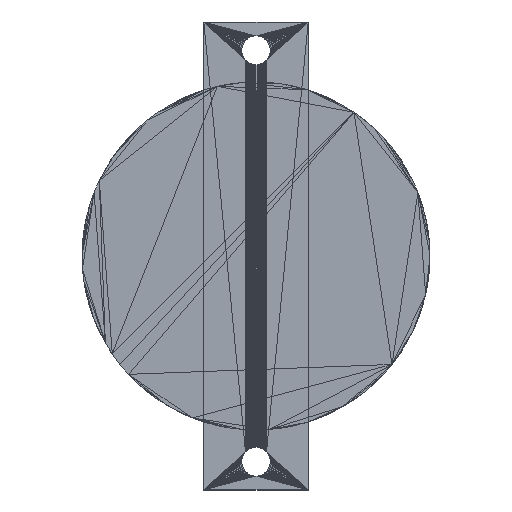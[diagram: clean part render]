
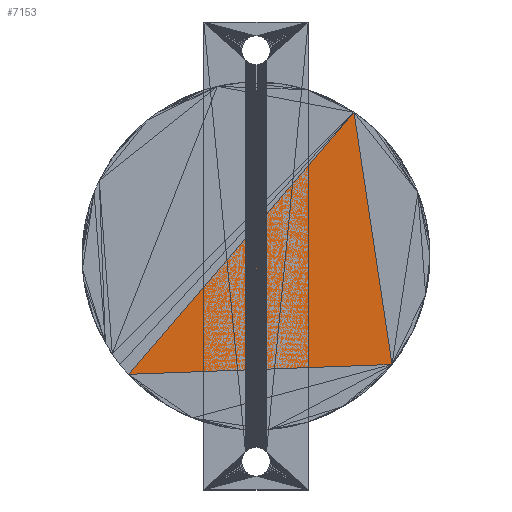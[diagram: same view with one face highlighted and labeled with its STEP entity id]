
A CAD part, top view. The second image highlights one B-rep face of the part: STEP entity #7153.
In plain terms, the highlighted planar face has unit normal (0, 0, 1).
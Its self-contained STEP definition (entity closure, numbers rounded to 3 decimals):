
#5424 = VERTEX_POINT('',#5425);
#5425 = CARTESIAN_POINT('',(15.637,29.53,
    -2.65));
#5582 = PLANE('',#5583);
#5583 = AXIS2_PLACEMENT_3D('',#5584,#5585,#5586);
#5584 = CARTESIAN_POINT('',(14.942,44.427,
    -2.65));
#5585 = DIRECTION('',(0.,0.,1.));
#5586 = DIRECTION('',(1.,0.,-0.));
#5746 = VERTEX_POINT('',#5747);
#5747 = CARTESIAN_POINT('',(11.266,58.525,
    -2.65));
#5974 = EDGE_CURVE('',#5424,#5746,#5975,.T.);
#5975 = SURFACE_CURVE('',#5976,(#5980,#5987),.PCURVE_S1.);
#5976 = LINE('',#5977,#5978);
#5977 = CARTESIAN_POINT('',(15.637,29.53,
    -2.65));
#5978 = VECTOR('',#5979,1.);
#5979 = DIRECTION('',(-0.149,0.989,0.)
  );
#5980 = PCURVE('',#5582,#5981);
#5981 = DEFINITIONAL_REPRESENTATION('',(#5982),#5986);
#5982 = LINE('',#5983,#5984);
#5983 = CARTESIAN_POINT('',(0.695,-14.897));
#5984 = VECTOR('',#5985,1.);
#5985 = DIRECTION('',(-0.149,0.989));
#5986 = ( GEOMETRIC_REPRESENTATION_CONTEXT(2) 
PARAMETRIC_REPRESENTATION_CONTEXT() REPRESENTATION_CONTEXT('2D SPACE',''
  ) );
#5987 = PCURVE('',#5988,#5993);
#5988 = PLANE('',#5989);
#5989 = AXIS2_PLACEMENT_3D('',#5990,#5991,#5992);
#5990 = CARTESIAN_POINT('',(3.438,39.205,
    -2.65));
#5991 = DIRECTION('',(0.,0.,1.));
#5992 = DIRECTION('',(1.,0.,-0.));
#5993 = DEFINITIONAL_REPRESENTATION('',(#5994),#5998);
#5994 = LINE('',#5995,#5996);
#5995 = CARTESIAN_POINT('',(12.198,-9.675));
#5996 = VECTOR('',#5997,1.);
#5997 = DIRECTION('',(-0.149,0.989));
#5998 = ( GEOMETRIC_REPRESENTATION_CONTEXT(2) 
PARAMETRIC_REPRESENTATION_CONTEXT() REPRESENTATION_CONTEXT('2D SPACE',''
  ) );
#6360 = VERTEX_POINT('',#6361);
#6361 = CARTESIAN_POINT('',(-14.661,28.397,
    -2.65));
#6492 = PLANE('',#6493);
#6493 = AXIS2_PLACEMENT_3D('',#6494,#6495,#6496);
#6494 = CARTESIAN_POINT('',(0.253,27.583,
    -2.65));
#6495 = DIRECTION('',(0.,0.,1.));
#6496 = DIRECTION('',(1.,0.,-0.));
#6534 = EDGE_CURVE('',#6360,#5424,#6535,.T.);
#6535 = SURFACE_CURVE('',#6536,(#6540,#6547),.PCURVE_S1.);
#6536 = LINE('',#6537,#6538);
#6537 = CARTESIAN_POINT('',(-14.661,28.397,
    -2.65));
#6538 = VECTOR('',#6539,1.);
#6539 = DIRECTION('',(0.999,0.037,
    0.));
#6540 = PCURVE('',#6492,#6541);
#6541 = DEFINITIONAL_REPRESENTATION('',(#6542),#6546);
#6542 = LINE('',#6543,#6544);
#6543 = CARTESIAN_POINT('',(-14.914,0.813));
#6544 = VECTOR('',#6545,1.);
#6545 = DIRECTION('',(0.999,0.037));
#6546 = ( GEOMETRIC_REPRESENTATION_CONTEXT(2) 
PARAMETRIC_REPRESENTATION_CONTEXT() REPRESENTATION_CONTEXT('2D SPACE',''
  ) );
#6547 = PCURVE('',#5988,#6548);
#6548 = DEFINITIONAL_REPRESENTATION('',(#6549),#6553);
#6549 = LINE('',#6550,#6551);
#6550 = CARTESIAN_POINT('',(-18.1,-10.809));
#6551 = VECTOR('',#6552,1.);
#6552 = DIRECTION('',(0.999,0.037));
#6553 = ( GEOMETRIC_REPRESENTATION_CONTEXT(2) 
PARAMETRIC_REPRESENTATION_CONTEXT() REPRESENTATION_CONTEXT('2D SPACE',''
  ) );
#7074 = EDGE_CURVE('',#6360,#5746,#7075,.T.);
#7075 = SURFACE_CURVE('',#7076,(#7080,#7092),.PCURVE_S1.);
#7076 = LINE('',#7077,#7078);
#7077 = CARTESIAN_POINT('',(-14.661,28.397,
    -2.65));
#7078 = VECTOR('',#7079,1.);
#7079 = DIRECTION('',(0.652,0.758,0.)
  );
#7080 = PCURVE('',#7081,#7086);
#7081 = PLANE('',#7082);
#7082 = AXIS2_PLACEMENT_3D('',#7083,#7084,#7085);
#7083 = CARTESIAN_POINT('',(-2.185,43.47,
    -2.65));
#7084 = DIRECTION('',(0.,0.,1.));
#7085 = DIRECTION('',(0.,1.,0.));
#7086 = DEFINITIONAL_REPRESENTATION('',(#7087),#7091);
#7087 = LINE('',#7088,#7089);
#7088 = CARTESIAN_POINT('',(-15.073,12.476));
#7089 = VECTOR('',#7090,1.);
#7090 = DIRECTION('',(0.758,-0.652));
#7091 = ( GEOMETRIC_REPRESENTATION_CONTEXT(2) 
PARAMETRIC_REPRESENTATION_CONTEXT() REPRESENTATION_CONTEXT('2D SPACE',''
  ) );
#7092 = PCURVE('',#5988,#7093);
#7093 = DEFINITIONAL_REPRESENTATION('',(#7094),#7098);
#7094 = LINE('',#7095,#7096);
#7095 = CARTESIAN_POINT('',(-18.1,-10.809));
#7096 = VECTOR('',#7097,1.);
#7097 = DIRECTION('',(0.652,0.758));
#7098 = ( GEOMETRIC_REPRESENTATION_CONTEXT(2) 
PARAMETRIC_REPRESENTATION_CONTEXT() REPRESENTATION_CONTEXT('2D SPACE',''
  ) );
#7153 = ADVANCED_FACE('',(#7154),#5988,.T.);
#7154 = FACE_BOUND('',#7155,.T.);
#7155 = EDGE_LOOP('',(#7156,#7157,#7158));
#7156 = ORIENTED_EDGE('',*,*,#6534,.T.);
#7157 = ORIENTED_EDGE('',*,*,#5974,.T.);
#7158 = ORIENTED_EDGE('',*,*,#7074,.F.);
